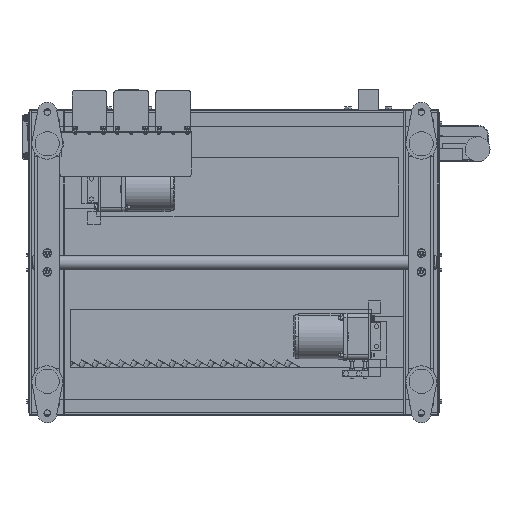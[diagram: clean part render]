
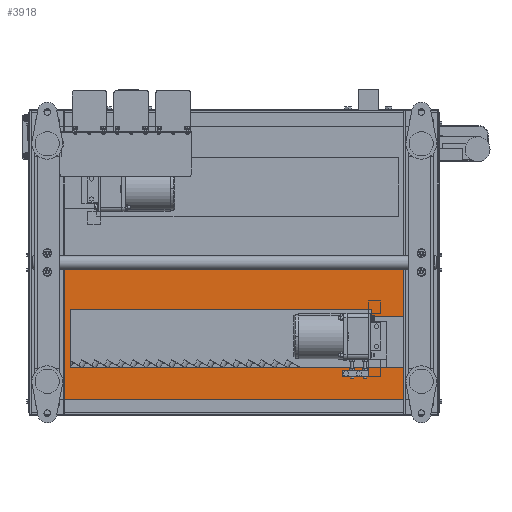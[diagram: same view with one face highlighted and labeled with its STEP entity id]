
A CAD part, front view. The second image highlights one B-rep face of the part: STEP entity #3918.
In plain terms, the highlighted planar face has unit normal (0, -1, 0).
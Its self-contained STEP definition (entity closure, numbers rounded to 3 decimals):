
#3918=ADVANCED_FACE('',(#12166,#12167),#12165,.F.);
#12165=PLANE('',#42733);
#12166=FACE_OUTER_BOUND('',#42734,.T.);
#12167=FACE_BOUND('',#42735,.T.);
#42730=CARTESIAN_POINT('',(817.,-93.,-307.));
#42731=DIRECTION('',(0.,1.,0.));
#42732=DIRECTION('',(-1.,0.,0.));
#42733=AXIS2_PLACEMENT_3D('',#42730,#42731,#42732);
#42734=EDGE_LOOP('',(#61856,#61857,#61858,#61859));
#42735=EDGE_LOOP('',(#61860,#61861,#61862,#61863,#61864,#61865));
#61856=ORIENTED_EDGE('',*,*,#76597,.T.);
#61857=ORIENTED_EDGE('',*,*,#76598,.F.);
#61858=ORIENTED_EDGE('',*,*,#76599,.F.);
#61859=ORIENTED_EDGE('',*,*,#76600,.T.);
#61860=ORIENTED_EDGE('',*,*,#76585,.T.);
#61861=ORIENTED_EDGE('',*,*,#76588,.T.);
#61862=ORIENTED_EDGE('',*,*,#76591,.T.);
#61863=ORIENTED_EDGE('',*,*,#76594,.T.);
#61864=ORIENTED_EDGE('',*,*,#76596,.T.);
#61865=ORIENTED_EDGE('',*,*,#76582,.T.);
#76582=EDGE_CURVE('',#92019,#92033,#92040,.T.);
#76585=EDGE_CURVE('',#92033,#92053,#92060,.T.);
#76588=EDGE_CURVE('',#92053,#92073,#92080,.T.);
#76591=EDGE_CURVE('',#92073,#92093,#92100,.T.);
#76594=EDGE_CURVE('',#92093,#92113,#92120,.T.);
#76596=EDGE_CURVE('',#92113,#92019,#92132,.T.);
#76597=EDGE_CURVE('',#92138,#92139,#92140,.T.);
#76598=EDGE_CURVE('',#92146,#92139,#92147,.T.);
#76599=EDGE_CURVE('',#92153,#92146,#92154,.T.);
#76600=EDGE_CURVE('',#92153,#92138,#92160,.T.);
#92019=VERTEX_POINT('',#142064);
#92033=VERTEX_POINT('',#142072);
#92040=LINE('',#142076,#142077);
#92053=VERTEX_POINT('',#142083);
#92060=LINE('',#142087,#142088);
#92073=VERTEX_POINT('',#142094);
#92080=LINE('',#142098,#142099);
#92093=VERTEX_POINT('',#142105);
#92100=LINE('',#142109,#142110);
#92113=VERTEX_POINT('',#142116);
#92120=LINE('',#142120,#142121);
#92132=LINE('',#142126,#142127);
#92138=VERTEX_POINT('',#142129);
#92139=VERTEX_POINT('',#142130);
#92140=LINE('',#142131,#142132);
#92146=VERTEX_POINT('',#142134);
#92147=LINE('',#142135,#142136);
#92153=VERTEX_POINT('',#142138);
#92154=LINE('',#142139,#142140);
#92160=LINE('',#142142,#142143);
#142064=CARTESIAN_POINT('',(80.,-93.,-92.));
#142072=CARTESIAN_POINT('',(677.,-93.,-92.));
#142076=CARTESIAN_POINT('',(80.,-93.,-92.));
#142077=VECTOR('',#142078,597.);
#142078=DIRECTION('',(1.,0.,0.));
#142083=CARTESIAN_POINT('',(677.,-93.,-107.));
#142087=CARTESIAN_POINT('',(677.,-93.,-92.));
#142088=VECTOR('',#142089,15.);
#142089=DIRECTION('',(0.,0.,-1.));
#142094=CARTESIAN_POINT('',(770.,-93.,-107.));
#142098=CARTESIAN_POINT('',(677.,-93.,-107.));
#142099=VECTOR('',#142100,93.);
#142100=DIRECTION('',(1.,0.,0.));
#142105=CARTESIAN_POINT('',(770.,-93.,-207.));
#142109=CARTESIAN_POINT('',(770.,-93.,-107.));
#142110=VECTOR('',#142111,100.);
#142111=DIRECTION('',(0.,0.,-1.));
#142116=CARTESIAN_POINT('',(80.,-93.,-207.));
#142120=CARTESIAN_POINT('',(770.,-93.,-207.));
#142121=VECTOR('',#142122,690.);
#142122=DIRECTION('',(-1.,0.,0.));
#142126=CARTESIAN_POINT('',(80.,-93.,-207.));
#142127=VECTOR('',#142128,115.);
#142128=DIRECTION('',(0.,0.,1.));
#142129=CARTESIAN_POINT('',(807.,-93.,-1.5));
#142130=CARTESIAN_POINT('',(3.,-93.,-1.5));
#142131=CARTESIAN_POINT('',(807.,-93.,-1.5));
#142132=VECTOR('',#142133,804.);
#142133=DIRECTION('',(-1.,0.,0.));
#142134=CARTESIAN_POINT('',(3.,-93.,-297.));
#142135=CARTESIAN_POINT('',(3.,-93.,-297.));
#142136=VECTOR('',#142137,295.5);
#142137=DIRECTION('',(0.,0.,1.));
#142138=CARTESIAN_POINT('',(807.,-93.,-297.));
#142139=CARTESIAN_POINT('',(807.,-93.,-297.));
#142140=VECTOR('',#142141,804.);
#142141=DIRECTION('',(-1.,0.,0.));
#142142=CARTESIAN_POINT('',(807.,-93.,-297.));
#142143=VECTOR('',#142144,295.5);
#142144=DIRECTION('',(0.,0.,1.));
